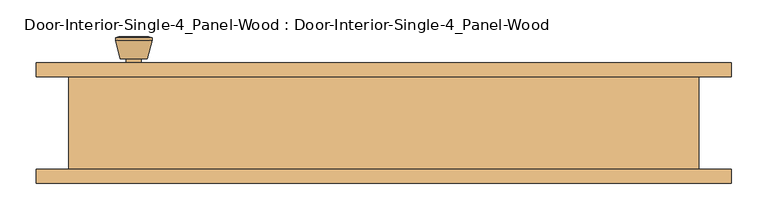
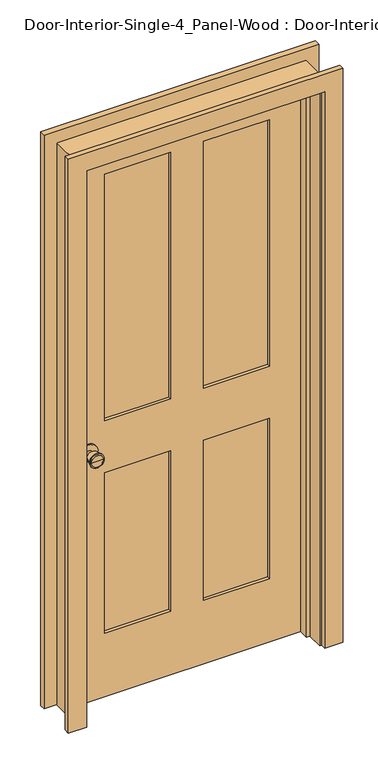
"""IFC4 building model written with IfcOpenShell, lengths in millimetres: door geometry, Door-Interior-Single-4_Panel-Wood : Door-Interior-Single-4_Panel-Wood."""

import ifcopenshell
import ifcopenshell.guid

model = None  # the IFC model being written
_history = None  # IfcOwnerHistory: only IFC2X3 demands one
_inside = {}  # id of a spatial element -> (the spatial element, [elements in it])
_under = {}  # id of a project, library or spatial element -> (it, [spatial elements below it])
_declared = {}  # id of a project -> (the project, [libraries it declares])
_typed = {}  # id of a type object -> (the type object, [elements of that type])
_made_of = {}  # id of a material, layer set ... -> (it, [elements and type objects made of it])


def new_model(schema):
    """Start an empty IFC model of exactly this schema.

    Asked for "IFC4X3", IfcOpenShell would pick the latest addendum, in which some entities
    have other attributes; the version numbers below select the first issue.
    IFC2X3 requires an IfcOwnerHistory on every rooted entity: one is made here for all.
    """
    global model, _history
    if schema == "IFC4X3":
        model = ifcopenshell.file(schema_version=(4, 3, 0, 0))
    else:
        model = ifcopenshell.file(schema=schema)
    _inside.clear()
    _under.clear()
    _declared.clear()
    _typed.clear()
    _made_of.clear()
    _history = None
    if model.schema == "IFC2X3":
        org = make("IfcOrganization", Name="unknown")
        user = make(
            "IfcPersonAndOrganization",
            ThePerson=make("IfcPerson", FamilyName="unknown"),
            TheOrganization=org,
        )
        app = make(
            "IfcApplication",
            ApplicationDeveloper=org,
            Version="unknown",
            ApplicationFullName="unknown",
            ApplicationIdentifier="unknown",
        )
        _history = make(
            "IfcOwnerHistory",
            OwningUser=user,
            OwningApplication=app,
            ChangeAction="ADDED",
            CreationDate=0,
        )
    return model


def make(cls, **values):
    """One entity of the class cls with the attributes given. An attribute that is None is left unset."""
    return model.create_entity(
        cls, **{name: value for name, value in values.items() if value is not None}
    )


def rooted(cls, **values):
    """An entity with a GlobalId (a new one), such as an element, a storey or a relation."""
    return make(cls, GlobalId=ifcopenshell.guid.new(), OwnerHistory=_history, **values)


def si_unit(unit_type, name, prefix=None):
    """IfcSIUnit, for example si_unit("LENGTHUNIT", "METRE", prefix="MILLI")."""
    return make("IfcSIUnit", UnitType=unit_type, Prefix=prefix, Name=name)


def assignment(units):
    """IfcUnitAssignment: the units of a project."""
    return None if units is None else make("IfcUnitAssignment", Units=units)


def point(xyz):
    """IfcCartesianPoint."""
    return None if xyz is None else make("IfcCartesianPoint", Coordinates=xyz)


def direction(xyz):
    """IfcDirection."""
    return None if xyz is None else make("IfcDirection", DirectionRatios=xyz)


def frame(location, z_axis=None, x_axis=None):
    """IfcAxis2Placement3D, a coordinate frame: its origin and axes. An axis left out is left unset."""
    return make(
        "IfcAxis2Placement3D",
        Location=point(location),
        Axis=direction(z_axis),
        RefDirection=direction(x_axis),
    )


def frame_2d(location, x_axis=None):
    """IfcAxis2Placement2D, a coordinate frame in the plane: its origin and x axis."""
    return make(
        "IfcAxis2Placement2D", Location=point(location), RefDirection=direction(x_axis)
    )


def origin():
    """The frame at (0, 0, 0) with its axes left unset."""
    return frame((0.0, 0.0, 0.0))


def place(relative_to, where):
    """IfcLocalPlacement: puts the frame where relative to a parent placement (None: the world)."""
    return make(
        "IfcLocalPlacement", PlacementRelTo=relative_to, RelativePlacement=where
    )


def context(
    kind, dimensions, precision=None, world=None, true_north=None, identifier=None
):
    """IfcGeometricRepresentationContext, for example the 3D "Model" context."""
    return make(
        "IfcGeometricRepresentationContext",
        ContextIdentifier=identifier,
        ContextType=kind,
        CoordinateSpaceDimension=dimensions,
        Precision=precision,
        WorldCoordinateSystem=world,
        TrueNorth=true_north,
    )


def project(units=None, contexts=None):
    """IfcProject with its units and contexts."""
    return rooted(
        "IfcProject",
        Name="project",
        RepresentationContexts=contexts,
        UnitsInContext=assignment(units),
    )


def spatial(cls, under=None, at=None, **own):
    """A site, building, storey or space (cls), placed at a placement, below another one or the project."""
    s = rooted(cls, ObjectPlacement=at, **own)
    if under is not None:
        _under.setdefault(under.id(), (under, []))[1].append(s)
    return s


def polyline(points):
    """IfcPolyline through the points."""
    return make("IfcPolyline", Points=[point(p) for p in points])


def circle_curve(where, radius):
    """IfcCircle in the frame where."""
    return make("IfcCircle", Position=where, Radius=radius)


def trimmed(basis, trim1, trim2, sense, master):
    """IfcTrimmedCurve: the piece of a basis curve between two trims."""
    return make(
        "IfcTrimmedCurve",
        BasisCurve=basis,
        Trim1=trim1,
        Trim2=trim2,
        SenseAgreement=sense,
        MasterRepresentation=master,
    )


def segment(curve, same_sense, transition):
    """IfcCompositeCurveSegment."""
    return make(
        "IfcCompositeCurveSegment",
        Transition=transition,
        SameSense=same_sense,
        ParentCurve=curve,
    )


def composite_curve(segments, self_intersect=None):
    """IfcCompositeCurve: segments joined end to end."""
    return make("IfcCompositeCurve", Segments=segments, SelfIntersect=self_intersect)


def outline(outer, holes=None, kind="AREA"):
    """IfcArbitraryClosedProfileDef: a profile drawn as a closed curve; with holes, ...WithVoids."""
    if holes is None:
        return make("IfcArbitraryClosedProfileDef", ProfileType=kind, OuterCurve=outer)
    return make(
        "IfcArbitraryProfileDefWithVoids",
        ProfileType=kind,
        OuterCurve=outer,
        InnerCurves=holes,
    )


def extrude(swept, where, along, depth):
    """IfcExtrudedAreaSolid: the profile swept, set in the frame where, extruded along a direction by depth."""
    return make(
        "IfcExtrudedAreaSolid",
        SweptArea=swept,
        Position=where,
        ExtrudedDirection=direction(along),
        Depth=depth,
    )


def faces_of(points, faces, orient=None, outer=None):
    """IfcFace entities. A face is a list of loops; a loop is a list of indices into points, from 0.

    orient and outer hold one flag for each loop. By default every Orientation is true, the
    first loop of a face is its IfcFaceOuterBound and the others are IfcFaceBound.
    """
    made = []
    for i, loops in enumerate(faces):
        bounds = []
        for j, loop in enumerate(loops):
            is_outer = j == 0 if outer is None else outer[i][j]
            bounds.append(
                make(
                    "IfcFaceOuterBound" if is_outer else "IfcFaceBound",
                    Bound=make("IfcPolyLoop", Polygon=[points[k] for k in loop]),
                    Orientation=True if orient is None else orient[i][j],
                )
            )
        made.append(make("IfcFace", Bounds=bounds))
    return made


def faceted_brep(points, faces, orient=None, outer=None, voids=None):
    """IfcFacetedBrep: a solid bounded by flat faces; with voids (closed shells), ...WithVoids."""
    shared = [point(p) for p in points]
    hull = make("IfcClosedShell", CfsFaces=faces_of(shared, faces, orient, outer))
    if voids is None:
        return make("IfcFacetedBrep", Outer=hull)
    return make(
        "IfcFacetedBrepWithVoids",
        Outer=hull,
        Voids=[
            make(cls, CfsFaces=faces_of(shared, fs, o, b)) for cls, fs, o, b in voids
        ],
    )


def shape(context_of_items, identifier, shape_type, items):
    """IfcShapeRepresentation: the items that make up one representation, for example the "Body"."""
    return make(
        "IfcShapeRepresentation",
        ContextOfItems=context_of_items,
        RepresentationIdentifier=identifier,
        RepresentationType=shape_type,
        Items=items,
    )


def source(mapping_origin, context_of_items, identifier, shape_type, items):
    """IfcRepresentationMap: a shape defined once, which mapped items show again and again."""
    return make(
        "IfcRepresentationMap",
        MappingOrigin=mapping_origin,
        MappedRepresentation=shape(context_of_items, identifier, shape_type, items),
    )


def transform(
    local_origin,
    x_axis=None,
    y_axis=None,
    z_axis=None,
    scale=None,
    scale2=None,
    scale3=None,
    uniform=True,
):
    """IfcCartesianTransformationOperator3D, or its non-uniform kind. x_axis, y_axis, z_axis: its Axis1, 2, 3."""
    if uniform:
        return make(
            "IfcCartesianTransformationOperator3D",
            Axis1=direction(x_axis),
            Axis2=direction(y_axis),
            LocalOrigin=point(local_origin),
            Scale=scale,
            Axis3=direction(z_axis),
        )
    return make(
        "IfcCartesianTransformationOperator3DnonUniform",
        Axis1=direction(x_axis),
        Axis2=direction(y_axis),
        LocalOrigin=point(local_origin),
        Scale=scale,
        Axis3=direction(z_axis),
        Scale2=scale2,
        Scale3=scale3,
    )


def mapped(mapping_source, mapping_target):
    """IfcMappedItem: shows the shape of a source again, moved by a transform."""
    return make(
        "IfcMappedItem", MappingSource=mapping_source, MappingTarget=mapping_target
    )


def made_of(thing, what):
    """Note that an element or type object is made of a material, layer set ...; save() writes the relation."""
    if what is not None:
        _made_of.setdefault(what.id(), (what, []))[1].append(thing)
    return thing


def element(
    cls,
    number,
    at=None,
    inside=None,
    cuts=None,
    type_object=None,
    material=None,
    context=None,
    identifier="Body",
    shape_type=None,
    held_by="IfcProductDefinitionShape",
    body=None,
    shapes=None,
    **own,
):
    """One element of the class cls, such as IfcWall. Its Tag is "e" and its number.

    at: its placement. inside: the storey or other place that contains it. cuts: it is an
    opening in that element (IfcRelVoidsElement). A single representation is given by context,
    identifier, shape_type and body (its items); several are given by shapes. held_by: the class
    of the entity that holds the representations. save() writes the other relations.
    """
    e = rooted(cls, Tag="e%d" % number, ObjectPlacement=at, **own)
    if body is not None:
        shapes = [shape(context, identifier, shape_type, body)]
    if shapes is not None:
        e.Representation = make(held_by, Representations=shapes)
    if inside is not None:
        _inside.setdefault(inside.id(), (inside, []))[1].append(e)
    if cuts is not None:
        rooted(
            "IfcRelVoidsElement", RelatingBuildingElement=cuts, RelatedOpeningElement=e
        )
    if type_object is not None:
        _typed.setdefault(type_object.id(), (type_object, []))[1].append(e)
    return made_of(e, material)


def aggregate(whole, parts):
    """IfcRelAggregates: a whole, such as a stair, and the parts it consists of."""
    return rooted("IfcRelAggregates", RelatingObject=whole, RelatedObjects=parts)


def save(model, path):
    """Write the relations noted so far, then the file.

    IfcRelAggregates (storeys below a building ...), IfcRelContainedInSpatialStructure (elements
    in a storey), IfcRelDefinesByType, IfcRelAssociatesMaterial and IfcRelDeclares: one each for
    every whole, place, type object, material and project.
    """
    for whole, parts in _under.values():
        aggregate(whole, parts)
    for where, things in _inside.values():
        rooted(
            "IfcRelContainedInSpatialStructure",
            RelatedElements=things,
            RelatingStructure=where,
        )
    for kind, things in _typed.values():
        rooted("IfcRelDefinesByType", RelatedObjects=things, RelatingType=kind)
    for what, things in _made_of.values():
        rooted("IfcRelAssociatesMaterial", RelatedObjects=things, RelatingMaterial=what)
    for by, libraries in _declared.values():
        rooted("IfcRelDeclares", RelatingContext=by, RelatedDefinitions=libraries)
    model.write(path)


def plane_surface(at):
    """IfcPlane: the flat surface through the origin of the frame at, square to its z axis."""
    return make("IfcPlane", Position=at)


def cylinder_surface(at, radius):
    """IfcCylindricalSurface: all points at the distance radius from the z axis of the frame at."""
    return make("IfcCylindricalSurface", Position=at, Radius=radius)


def revolved_surface(curve, axis_point, axis_direction):
    """IfcSurfaceOfRevolution: the curve turned about the line through axis_point along axis_direction."""
    return make(
        "IfcSurfaceOfRevolution",
        SweptCurve=make("IfcArbitraryOpenProfileDef", ProfileType="CURVE", Curve=curve),
        AxisPosition=make("IfcAxis1Placement", Location=point(axis_point), Axis=direction(axis_direction)),
    )


def advanced_brep(points, edges, surfaces, faces):
    """IfcAdvancedBrep: a solid bounded by faces that lie on surfaces and meet in shared edges.

    An edge is (start, end): straight between two places in points (the first is 0);
    or (start, end, curve); or (start, end, curve, False) where it runs against its curve.
    A face is (place in surfaces, loops), or (place, loops, False) where it looks against
    its surface's normal. A loop lists edges by number (the first is 1), with a minus sign
    where the edge is run from its end to its start. The first loop is the outer one.
    """
    corners = [point(p) for p in points]
    vertices = [make("IfcVertexPoint", VertexGeometry=c) for c in corners]
    made = []
    for start, end, *more in edges:
        made.append(
            make(
                "IfcEdgeCurve",
                EdgeStart=vertices[start],
                EdgeEnd=vertices[end],
                EdgeGeometry=more[0] if more else make("IfcPolyline", Points=[corners[start], corners[end]]),
                SameSense=more[1] if len(more) > 1 else True,
            )
        )
    hull = []
    for where, loops, *sense in faces:
        bounds = []
        for j, loop in enumerate(loops):
            ring = [make("IfcOrientedEdge", EdgeElement=made[abs(k) - 1], Orientation=k > 0) for k in loop]
            bounds.append(
                make(
                    "IfcFaceOuterBound" if j == 0 else "IfcFaceBound",
                    Bound=make("IfcEdgeLoop", EdgeList=ring),
                    Orientation=True,
                )
            )
        hull.append(make("IfcAdvancedFace", Bounds=bounds, FaceSurface=surfaces[where], SameSense=sense[0] if sense else True))
    return make("IfcAdvancedBrep", Outer=make("IfcClosedShell", CfsFaces=hull))


def door_interior_single_4_panel_wood_door_interior_single_4_f9b1e9fa(model_context):
    return source(origin(), model_context, "Body", "SolidModel", [
        advanced_brep(
        [(-342.9, 19.4, 914.4), (-332.9, 19.4, 914.4), (-352.9, 19.4, 914.4), (-322.4241324, -29.6, 914.4), (-342.9, -29.6, 914.4), (-363.3758676, -29.6, 914.4), (-317.9, -27.7721319, 914.4), (-367.9, -27.7721319, 914.4), (-317.9, -24.3084537, 914.4), (-367.9, -24.3084537, 914.4), (-324.263764, 0.4, 914.4), (-361.536236, 0.4, 914.4), (-332.9, 0.4, 914.4), (-352.9, 0.4, 914.4)],
        [
            (0, 1),
            (1, 2, circle_curve(frame((-342.9, 19.4, 914.4), z_axis=(0.0, 1.0, 0.0), x_axis=(-1.0, 0.0, 0.0)), 10.0)),
            (2, 0),
            (2, 1, circle_curve(frame((-342.9, 19.4, 914.4), z_axis=(0.0, 1.0, 0.0), x_axis=(-1.0, 0.0, 0.0)), 10.0)),
            (3, 4),
            (4, 5),
            (5, 3, circle_curve(frame((-342.9, -29.6, 914.4), z_axis=(0.0, -1.0, 0.0), x_axis=(-1.0, 0.0, 0.0)), 20.4758676)),
            (3, 5, circle_curve(frame((-342.9, -29.6, 914.4), z_axis=(0.0, -1.0, 0.0), x_axis=(-1.0, 0.0, 0.0)), 20.4758676)),
            (6, 3),
            (5, 7),
            (7, 6, circle_curve(frame((-342.9, -27.7721319, 914.4), z_axis=(0.0, -1.0, 0.0), x_axis=(-1.0, 0.0, 0.0)), 25.0)),
            (6, 7, circle_curve(frame((-342.9, -27.7721319, 914.4), z_axis=(0.0, -1.0, 0.0), x_axis=(-1.0, 0.0, 0.0)), 25.0)),
            (8, 6),
            (7, 9),
            (9, 8, circle_curve(frame((-342.9, -24.3084537, 914.4), z_axis=(0.0, -1.0, 0.0), x_axis=(-1.0, 0.0, 0.0)), 25.0)),
            (8, 9, circle_curve(frame((-342.9, -24.3084537, 914.4), z_axis=(0.0, -1.0, 0.0), x_axis=(-1.0, 0.0, 0.0)), 25.0)),
            (10, 8),
            (9, 11),
            (11, 10, circle_curve(frame((-342.9, 0.4, 914.4), z_axis=(0.0, -1.0, 0.0), x_axis=(-1.0, 0.0, 0.0)), 18.636236)),
            (10, 11, circle_curve(frame((-342.9, 0.4, 914.4), z_axis=(0.0, -1.0, 0.0), x_axis=(-1.0, 0.0, 0.0)), 18.636236)),
            (12, 10),
            (11, 13),
            (13, 12, circle_curve(frame((-342.9, 0.4, 914.4), z_axis=(0.0, -1.0, 0.0), x_axis=(-1.0, 0.0, 0.0)), 10.0)),
            (12, 13, circle_curve(frame((-342.9, 0.4, 914.4), z_axis=(0.0, -1.0, 0.0), x_axis=(-1.0, 0.0, 0.0)), 10.0)),
            (1, 12),
            (13, 2),
        ],
        [
            plane_surface(frame((-342.9, 19.4, 914.4), z_axis=(0.0, 1.0, 0.0), x_axis=(-1.0, 0.0, 0.0))),
            plane_surface(frame((-342.9, -29.6, 914.4), z_axis=(0.0, -1.0, 0.0), x_axis=(-1.0, 0.0, 0.0))),
            revolved_surface(polyline([(-363.3758676, -29.6, 914.4), (-367.9, -27.7721319, 914.4)]), (-342.9, 19.4, 914.4), (0.0, 1.0, 0.0)),
            cylinder_surface(frame((-342.9, 19.4, 914.4), z_axis=(0.0, 1.0, 0.0), x_axis=(-1.0, 0.0, 0.0)), 25.0),
            revolved_surface(polyline([(-367.9, -24.3084537, 914.4), (-361.536236, 0.4, 914.4)]), (-342.9, 19.4, 914.4), (0.0, 1.0, 0.0)),
            plane_surface(frame((-342.9, 0.4, 914.4), z_axis=(0.0, 1.0, 0.0), x_axis=(-1.0, 0.0, 0.0))),
            cylinder_surface(frame((-342.9, 19.4, 914.4), z_axis=(0.0, 1.0, 0.0), x_axis=(-1.0, 0.0, 0.0)), 10.0),
        ],
        [
            (0, [[1, 2, 3]]),
            (0, [[-3, 4, -1]]),
            (1, [[5, 6, 7]]),
            (1, [[-6, -5, 8]]),
            (2, [[9, -7, 10, 11]]),
            (2, [[-10, -8, -9, 12]]),
            (3, [[13, -11, 14, 15]]),
            (3, [[-14, -12, -13, 16]]),
            (4, [[17, -15, 18, 19]]),
            (4, [[-18, -16, -17, 20]]),
            (5, [[21, -19, 22, 23]]),
            (5, [[-22, -20, -21, 24]]),
            (6, [[25, -23, 26, -2]]),
            (6, [[-26, -24, -25, -4]]),
        ],
    ),
        extrude(outline(composite_curve([segment(trimmed(circle_curve(frame_2d((914.4, -342.9)), 30.0), [point((914.4, -372.9))], [point((914.4, -312.9))], False, "CARTESIAN"), True, "CONTINUOUS"), segment(trimmed(circle_curve(frame_2d((914.4, -342.9)), 30.0), [point((914.4, -312.9))], [point((914.4, -372.9))], False, "CARTESIAN"), True, "CONTINUOUS")], self_intersect=False)), frame((0.0, 19.4, 0.0), z_axis=(0.0, 1.0, 0.0), x_axis=(0.0, 0.0, 1.0)), (0.0, 0.0, 1.0), 6.0),
        advanced_brep(
        [(-342.9, 66.325, 914.4), (-352.9, 66.325, 914.4), (-332.9, 66.325, 914.4), (-322.4241324, 115.325, 914.4), (-363.3758676, 115.325, 914.4), (-342.9, 115.325, 914.4), (-317.9, 113.4971319, 914.4), (-367.9, 113.4971319, 914.4), (-317.9, 110.0334537, 914.4), (-367.9, 110.0334537, 914.4), (-324.263764, 85.325, 914.4), (-361.536236, 85.325, 914.4), (-332.9, 85.325, 914.4), (-352.9, 85.325, 914.4)],
        [
            (0, 1),
            (1, 2, circle_curve(frame((-342.9, 66.325, 914.4), z_axis=(0.0, -1.0, 0.0), x_axis=(-1.0, 0.0, 0.0)), 10.0)),
            (2, 0),
            (2, 1, circle_curve(frame((-342.9, 66.325, 914.4), z_axis=(0.0, -1.0, 0.0), x_axis=(-1.0, 0.0, 0.0)), 10.0)),
            (3, 4, circle_curve(frame((-342.9, 115.325, 914.4), z_axis=(0.0, 1.0, 0.0), x_axis=(-1.0, 0.0, 0.0)), 20.4758676)),
            (4, 5),
            (5, 3),
            (4, 3, circle_curve(frame((-342.9, 115.325, 914.4), z_axis=(0.0, 1.0, 0.0), x_axis=(-1.0, 0.0, 0.0)), 20.4758676)),
            (6, 7, circle_curve(frame((-342.9, 113.4971319, 914.4), z_axis=(0.0, 1.0, 0.0), x_axis=(-1.0, 0.0, 0.0)), 25.0)),
            (7, 4),
            (3, 6),
            (7, 6, circle_curve(frame((-342.9, 113.4971319, 914.4), z_axis=(0.0, 1.0, 0.0), x_axis=(-1.0, 0.0, 0.0)), 25.0)),
            (8, 9, circle_curve(frame((-342.9, 110.0334537, 914.4), z_axis=(0.0, 1.0, 0.0), x_axis=(-1.0, 0.0, 0.0)), 25.0)),
            (9, 7),
            (6, 8),
            (9, 8, circle_curve(frame((-342.9, 110.0334537, 914.4), z_axis=(0.0, 1.0, 0.0), x_axis=(-1.0, 0.0, 0.0)), 25.0)),
            (10, 11, circle_curve(frame((-342.9, 85.325, 914.4), z_axis=(0.0, 1.0, 0.0), x_axis=(-1.0, 0.0, 0.0)), 18.636236)),
            (11, 9),
            (8, 10),
            (11, 10, circle_curve(frame((-342.9, 85.325, 914.4), z_axis=(0.0, 1.0, 0.0), x_axis=(-1.0, 0.0, 0.0)), 18.636236)),
            (12, 13, circle_curve(frame((-342.9, 85.325, 914.4), z_axis=(0.0, 1.0, 0.0), x_axis=(-1.0, 0.0, 0.0)), 10.0)),
            (13, 11),
            (10, 12),
            (13, 12, circle_curve(frame((-342.9, 85.325, 914.4), z_axis=(0.0, 1.0, 0.0), x_axis=(-1.0, 0.0, 0.0)), 10.0)),
            (1, 13),
            (12, 2),
        ],
        [
            plane_surface(frame((-342.9, 66.325, 914.4), z_axis=(0.0, -1.0, 0.0), x_axis=(-1.0, 0.0, 0.0))),
            plane_surface(frame((-342.9, 115.325, 914.4), z_axis=(0.0, 1.0, 0.0), x_axis=(-1.0, 0.0, 0.0))),
            revolved_surface(polyline([(-363.3758676, 115.325, 914.4), (-367.9, 113.4971319, 914.4)]), (-342.9, 66.325, 914.4), (0.0, -1.0, 0.0)),
            cylinder_surface(frame((-342.9, 66.325, 914.4), z_axis=(0.0, -1.0, 0.0), x_axis=(-1.0, 0.0, 0.0)), 25.0),
            revolved_surface(polyline([(-367.9, 110.0334537, 914.4), (-361.536236, 85.325, 914.4)]), (-342.9, 66.325, 914.4), (0.0, -1.0, 0.0)),
            plane_surface(frame((-342.9, 85.325, 914.4), z_axis=(0.0, -1.0, 0.0), x_axis=(-1.0, 0.0, 0.0))),
            cylinder_surface(frame((-342.9, 66.325, 914.4), z_axis=(0.0, -1.0, 0.0), x_axis=(-1.0, 0.0, 0.0)), 10.0),
        ],
        [
            (0, [[1, 2, 3]]),
            (0, [[-3, 4, -1]]),
            (1, [[5, 6, 7]]),
            (1, [[8, -7, -6]]),
            (2, [[9, 10, -5, 11]]),
            (2, [[12, -11, -8, -10]]),
            (3, [[13, 14, -9, 15]]),
            (3, [[16, -15, -12, -14]]),
            (4, [[17, 18, -13, 19]]),
            (4, [[20, -19, -16, -18]]),
            (5, [[21, 22, -17, 23]]),
            (5, [[24, -23, -20, -22]]),
            (6, [[-2, 25, -21, 26]]),
            (6, [[-4, -26, -24, -25]]),
        ],
    ),
        extrude(outline(composite_curve([segment(trimmed(circle_curve(frame_2d((914.4, -342.9)), 30.0), [point((914.4, -372.9))], [point((914.4, -312.9))], False, "CARTESIAN"), True, "CONTINUOUS"), segment(trimmed(circle_curve(frame_2d((914.4, -342.9)), 30.0), [point((914.4, -312.9))], [point((914.4, -372.9))], False, "CARTESIAN"), True, "CONTINUOUS")], self_intersect=False)), frame((0.0, 60.325, 0.0), z_axis=(0.0, 1.0, 0.0), x_axis=(0.0, 0.0, 1.0)), (0.0, 0.0, 1.0), 6.0),
        extrude(outline(polyline([(285.75, 37.0416667), (57.15, 37.0416667), (57.15, 48.6833333), (285.75, 48.6833333), (285.75, 37.0416667)])), frame((0.0, 0.0, 1009.65), z_axis=(0.0, 0.0, 1.0), x_axis=(1.0, 0.0, 0.0)), (0.0, 0.0, 1.0), 903.2875),
        extrude(outline(polyline([(-57.15, 37.0416667), (-285.75, 37.0416667), (-285.75, 48.6833333), (-57.15, 48.6833333), (-57.15, 37.0416667)])), frame((0.0, 0.0, 1009.65), z_axis=(0.0, 0.0, 1.0), x_axis=(1.0, 0.0, 0.0)), (0.0, 0.0, 1.0), 903.2875),
        extrude(outline(polyline([(285.75, 37.0416667), (57.15, 37.0416667), (57.15, 48.6833333), (285.75, 48.6833333), (285.75, 37.0416667)])), frame((0.0, 0.0, 231.775), z_axis=(0.0, 0.0, 1.0), x_axis=(1.0, 0.0, 0.0)), (0.0, 0.0, 1.0), 587.375),
        extrude(outline(polyline([(-57.15, 37.0416667), (-285.75, 37.0416667), (-285.75, 48.6833333), (-57.15, 48.6833333), (-57.15, 37.0416667)])), frame((0.0, 0.0, 231.775), z_axis=(0.0, 0.0, 1.0), x_axis=(1.0, 0.0, 0.0)), (0.0, 0.0, 1.0), 587.375),
        extrude(outline(polyline([(2032.0, -406.4), (0.0, -406.4), (0.0, 406.4), (2032.0, 406.4), (2032.0, -406.4)]), holes=[polyline([(1912.9375, 57.15), (1912.9375, 285.75), (1009.65, 285.75), (1009.65, 57.15), (1912.9375, 57.15)]), polyline([(1009.65, -57.15), (1009.65, -285.75), (1912.9375, -285.75), (1912.9375, -57.15), (1009.65, -57.15)]), polyline([(819.15, 57.15), (819.15, 285.75), (231.775, 285.75), (231.775, 57.15), (819.15, 57.15)]), polyline([(231.775, -57.15), (231.775, -285.75), (819.15, -285.75), (819.15, -57.15), (231.775, -57.15)])]), frame((0.0, 25.4, 0.0), z_axis=(0.0, 1.0, 0.0), x_axis=(0.0, 0.0, 1.0)), (0.0, 0.0, 1.0), 34.925),
        faceted_brep([(431.8, 60.325, 0.0), (431.8, -66.675, 0.0), (406.4, -66.675, 0.0), (406.4, -9.525, 0.0), (393.7, -9.525, 0.0), (393.7, 25.4, 0.0), (406.4, 25.4, 0.0), (406.4, 60.325, 0.0), (431.8, 60.325, 2057.4), (431.8, -66.675, 2057.4), (-431.8, -66.675, 2057.4), (-431.8, -66.675, 0.0), (-406.4, -66.675, 0.0), (-406.4, -66.675, 2032.0), (406.4, -66.675, 2032.0), (406.4, -9.525, 2032.0), (-406.4, -9.525, 2032.0), (-406.4, -9.525, 0.0), (-393.7, -9.525, 0.0), (-393.7, -9.525, 2019.3), (393.7, -9.525, 2019.3), (393.7, 25.4, 2019.3), (-393.7, 25.4, 2019.3), (-393.7, 25.4, 0.0), (-406.4, 25.4, 0.0), (-406.4, 25.4, 2032.0), (406.4, 25.4, 2032.0), (406.4, 60.325, 2032.0), (-406.4, 60.325, 2032.0), (-406.4, 60.325, 0.0), (-431.8, 60.325, 0.0), (-431.8, 60.325, 2057.4)], [[[0, 1, 2, 3, 4, 5, 6, 7]], [[1, 0, 8, 9]], [[2, 1, 9, 10, 11, 12, 13, 14]], [[3, 2, 14, 15]], [[4, 3, 15, 16, 17, 18, 19, 20]], [[5, 4, 20, 21]], [[6, 5, 21, 22, 23, 24, 25, 26]], [[7, 6, 26, 27]], [[0, 7, 27, 28, 29, 30, 31, 8]], [[9, 8, 31, 10]], [[15, 14, 13, 16]], [[21, 20, 19, 22]], [[27, 26, 25, 28]], [[30, 29, 24, 23, 18, 17, 12, 11]], [[10, 31, 30, 11]], [[16, 13, 12, 17]], [[22, 19, 18, 23]], [[28, 25, 24, 29]]]),
        extrude(outline(polyline([(0.0, 412.75), (0.0, 476.25), (2101.85, 476.25), (2101.85, -476.25), (0.0, -476.25), (0.0, -412.75), (2038.35, -412.75), (2038.35, 412.75), (0.0, 412.75)])), frame((0.0, -85.725, 0.0), z_axis=(0.0, 1.0, 0.0), x_axis=(0.0, 0.0, 1.0)), (0.0, 0.0, 1.0), 19.05),
        extrude(outline(polyline([(0.0, 412.75), (0.0, 476.25), (2101.85, 476.25), (2101.85, -476.25), (0.0, -476.25), (0.0, -412.75), (2038.35, -412.75), (2038.35, 412.75), (0.0, 412.75)])), frame((0.0, 60.325, 0.0), z_axis=(0.0, 1.0, 0.0), x_axis=(0.0, 0.0, 1.0)), (0.0, 0.0, 1.0), 19.05),
    ])


if __name__ == "__main__":
    model = new_model("IFC4")
    model_context = context("Model", 3, world=origin())
    ifc_project = project(units=[si_unit("LENGTHUNIT", "METRE", prefix="MILLI")], contexts=[model_context])
    site = spatial("IfcSite", under=ifc_project)
    building = spatial("IfcBuilding", under=site)
    placement = place(None, origin())
    door_interior_single_4_panel_wood_door_interior_single_4_shape = door_interior_single_4_panel_wood_door_interior_single_4_f9b1e9fa(model_context)
    element("IfcDoor", 1, ObjectType="Door-Interior-Single-4_Panel-Wood : Door-Interior-Single-4_Panel-Wood", at=placement, inside=building, context=model_context, shape_type="MappedRepresentation", body=[
        mapped(door_interior_single_4_panel_wood_door_interior_single_4_shape, transform((0.0, 0.0, 0.0), x_axis=(1.0, 0.0, 0.0), y_axis=(0.0, 1.0, 0.0), z_axis=(0.0, 0.0, 1.0))),
    ])
    save(model, "model.ifc")
